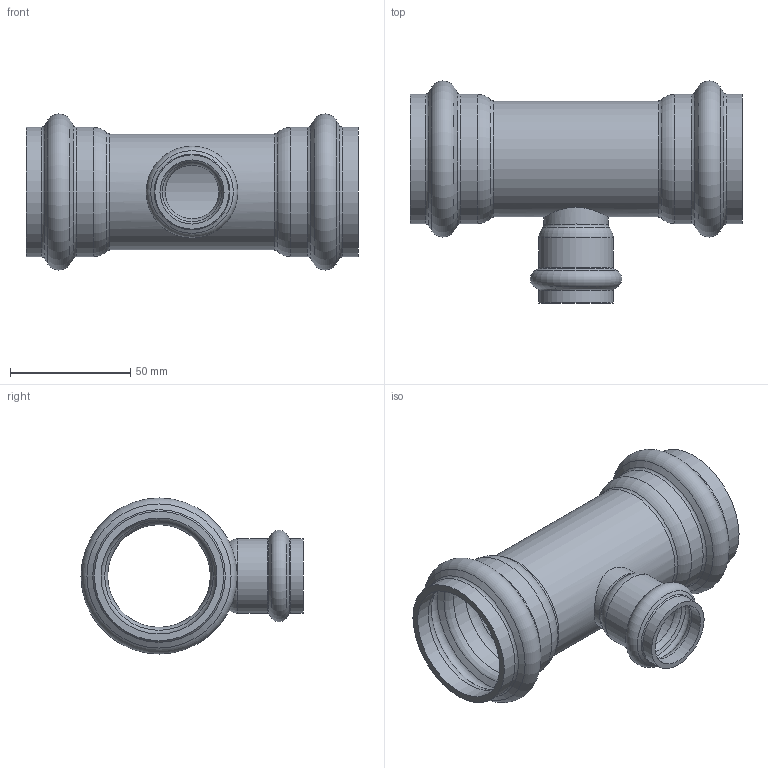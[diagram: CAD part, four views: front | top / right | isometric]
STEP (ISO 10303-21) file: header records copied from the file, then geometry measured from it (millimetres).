
FILE_DESCRIPTION(/* description */ ('VIC TEE RED. BRANCH STYLE P593 (P X P X P)','CAx-IF Rec.Pracs.---Representation and Presentation of Product Manufacturing Information (PMI)---4.0---2014-10-13'),/* implementation_level */ '2;1');
FILE_NAME(/* name */ 'C:\Users\Vjadhav\AppData\Roaming\Autodesk\ApplicationPlugins\Back Up\Victaulic_SS-Vic-Press-TP 304_Tee Reducing_Style P593 (VP)\Victaulic_SS-Vic-Press-TP 304_Tee Reducing_Style P593 (VP)_01.5x0.75 (40x20).stp',/* time_stamp */ '2020-08-12T18:32:30+05:00',/* author */ ('cgray'),/* organization */ ('Victaulic'),/* preprocessor_version */ 'ST-DEVELOPER v17.2',/* originating_system */ 'Autodesk Inventor 2019',/* authorisation */ '');
FILE_SCHEMA (('AP242_MANAGED_MODEL_BASED_3D_ENGINEERING_MIM_LF { 1 0 10303 442 1 1 4 }'));
Length unit declared in the file: inch
Products named in the file (1): P593-01.5x0.75
Bounding box: 138.18 x 92.43 x 64.97 mm (x, y, z)
Volume: 71433 mm3; surface area: 54519.3 mm2
Topology: 1 solids, 1 shells, 61 faces, 220 edges, 160 vertices
Faces by surface type: torus 30, cylinder 16, cone 12, plane 3
Full cylindrical faces by diameter (mm): 22.454 x1, 26.67 x3, 30.886 x2, 42.723 x1, 48.26 x5, 53.797 x4
Entity records: 2817 total; most frequent: CARTESIAN_POINT 555, DIRECTION 544, ORIENTED_EDGE 440, AXIS2_PLACEMENT_3D 257, EDGE_CURVE 220, CIRCLE 182, VERTEX_POINT 160, EDGE_LOOP 64
